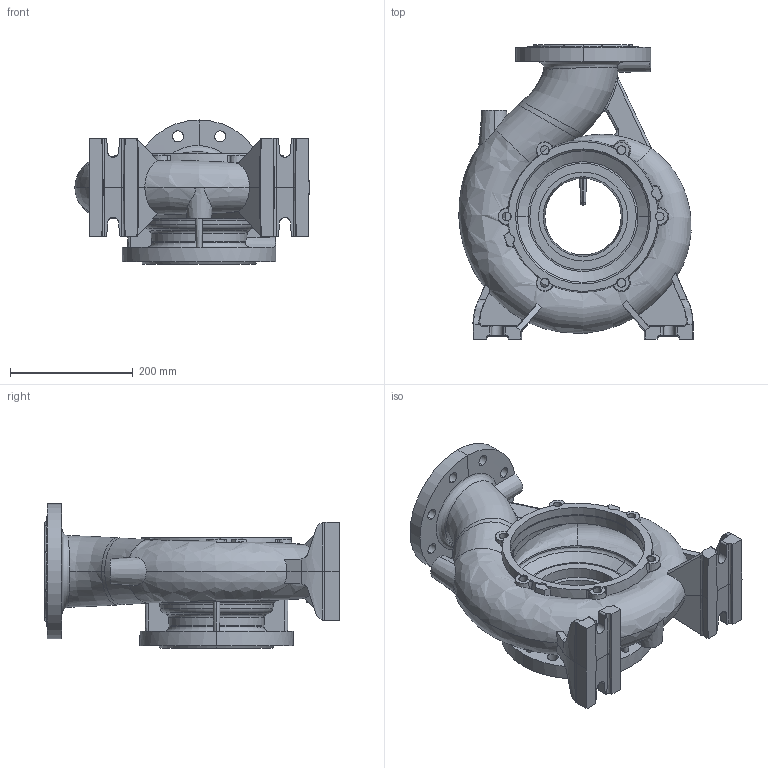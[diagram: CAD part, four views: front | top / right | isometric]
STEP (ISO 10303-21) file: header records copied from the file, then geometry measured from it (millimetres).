
FILE_DESCRIPTION (( 'STEP AP203' ), '1' );
FILE_NAME ('NM 100-200.STEP', '2016-11-10T10:03:10', ( '' ), ( '' ), 'SwSTEP 2.0', 'SolidWorks 2015', '' );
FILE_SCHEMA (( 'CONFIG_CONTROL_DESIGN' ));
Length unit declared in the file: millimetre
Products named in the file (1): NM 100-200
Bounding box: 381.9 x 480 x 235 mm (x, y, z)
Volume: 5528320.9 mm3; surface area: 887133.4 mm2
Topology: 1 solids, 1 shells, 446 faces, 1261 edges, 813 vertices
Faces by surface type: plane 137, cone 119, cylinder 95, bspline 59, torus 36
Entity records: 35044 total; most frequent: CARTESIAN_POINT 24362, ORIENTED_EDGE 2522, DIRECTION 1855, EDGE_CURVE 1261, VERTEX_POINT 813, AXIS2_PLACEMENT_3D 732, EDGE_LOOP 486, B_SPLINE_CURVE_WITH_KNOTS 464
